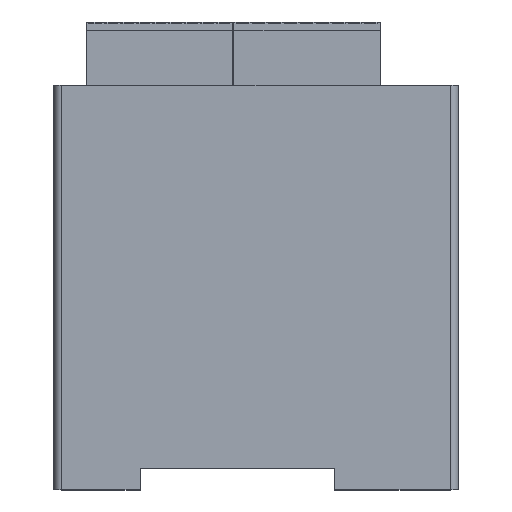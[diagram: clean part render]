
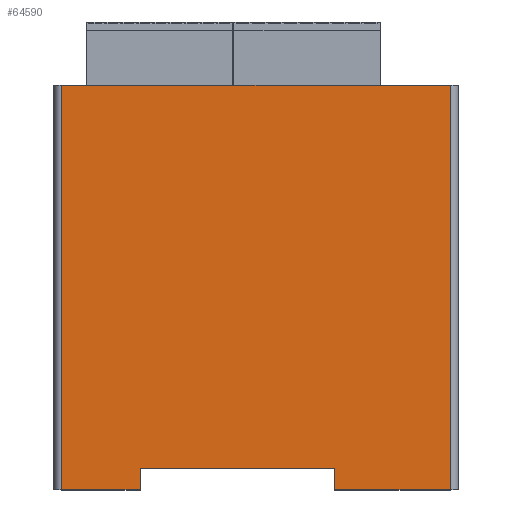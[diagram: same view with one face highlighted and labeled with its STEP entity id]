
A CAD part, top view. The second image highlights one B-rep face of the part: STEP entity #64590.
In plain terms, the highlighted planar face has unit normal (0, 0, 1).
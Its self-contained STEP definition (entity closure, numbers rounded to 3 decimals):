
#7589=DIRECTION('',(0.,-1.,0.));
#7590=VECTOR('',#7589,96.);
#7591=CARTESIAN_POINT('',(-46.15,48.,31.));
#7592=LINE('',#7591,#7590);
#7593=DIRECTION('',(0.,-1.,0.));
#7594=VECTOR('',#7593,5.);
#7595=CARTESIAN_POINT('',(-27.51,-43.,31.));
#7596=LINE('',#7595,#7594);
#7597=DIRECTION('',(-1.,0.,0.));
#7598=VECTOR('',#7597,18.64);
#7599=CARTESIAN_POINT('',(-27.51,-48.,31.));
#7600=LINE('',#7599,#7598);
#7601=DIRECTION('',(1.,0.,0.));
#7602=VECTOR('',#7601,92.3);
#7603=CARTESIAN_POINT('',(-46.15,48.,31.));
#7604=LINE('',#7603,#7602);
#7605=DIRECTION('',(-1.,0.,0.));
#7606=VECTOR('',#7605,27.53);
#7607=CARTESIAN_POINT('',(46.15,-48.,31.));
#7608=LINE('',#7607,#7606);
#7609=DIRECTION('',(-1.,0.,0.));
#7610=VECTOR('',#7609,46.13);
#7611=CARTESIAN_POINT('',(18.62,-43.,31.));
#7612=LINE('',#7611,#7610);
#7617=DIRECTION('',(0.,1.,0.));
#7618=VECTOR('',#7617,96.);
#7619=CARTESIAN_POINT('',(46.15,-48.,31.));
#7620=LINE('',#7619,#7618);
#7655=DIRECTION('',(0.,-1.,0.));
#7656=VECTOR('',#7655,5.);
#7657=CARTESIAN_POINT('',(18.62,-43.,31.));
#7658=LINE('',#7657,#7656);
#44835=CARTESIAN_POINT('',(46.15,48.,31.));
#44836=VERTEX_POINT('',#44835);
#44837=CARTESIAN_POINT('',(-46.15,48.,31.));
#44838=VERTEX_POINT('',#44837);
#57901=CARTESIAN_POINT('',(-27.51,-48.,31.));
#57902=VERTEX_POINT('',#57901);
#57903=CARTESIAN_POINT('',(-27.51,-43.,31.));
#57904=VERTEX_POINT('',#57903);
#57905=CARTESIAN_POINT('',(-46.15,-48.,31.));
#57906=VERTEX_POINT('',#57905);
#57907=CARTESIAN_POINT('',(18.62,-48.,31.));
#57908=VERTEX_POINT('',#57907);
#57909=CARTESIAN_POINT('',(46.15,-48.,31.));
#57910=VERTEX_POINT('',#57909);
#57915=CARTESIAN_POINT('',(18.62,-43.,31.));
#57916=VERTEX_POINT('',#57915);
#64571=CARTESIAN_POINT('',(0.,0.,31.));
#64572=DIRECTION('',(0.,0.,1.));
#64573=DIRECTION('',(1.,0.,0.));
#64574=AXIS2_PLACEMENT_3D('',#64571,#64572,#64573);
#64575=PLANE('',#64574);
#64576=ORIENTED_EDGE('',*,*,#64535,.T.);
#64577=ORIENTED_EDGE('',*,*,#64553,.T.);
#64578=ORIENTED_EDGE('',*,*,#64566,.F.);
#64579=ORIENTED_EDGE('',*,*,#58236,.T.);
#64581=ORIENTED_EDGE('',*,*,#64580,.F.);
#64583=ORIENTED_EDGE('',*,*,#64582,.T.);
#64585=ORIENTED_EDGE('',*,*,#64584,.F.);
#64587=ORIENTED_EDGE('',*,*,#64586,.T.);
#64588=EDGE_LOOP('',(#64576,#64577,#64578,#64579,#64581,#64583,#64585,#64587));
#64589=FACE_OUTER_BOUND('',#64588,.F.);
#58236=EDGE_CURVE('',#44838,#44836,#7604,.T.);
#64535=EDGE_CURVE('',#57904,#57902,#7596,.T.);
#64553=EDGE_CURVE('',#57902,#57906,#7600,.T.);
#64566=EDGE_CURVE('',#44838,#57906,#7592,.T.);
#64580=EDGE_CURVE('',#57910,#44836,#7620,.T.);
#64582=EDGE_CURVE('',#57910,#57908,#7608,.T.);
#64584=EDGE_CURVE('',#57916,#57908,#7658,.T.);
#64586=EDGE_CURVE('',#57916,#57904,#7612,.T.);
#64590=ADVANCED_FACE('',(#64589),#64575,.T.);
